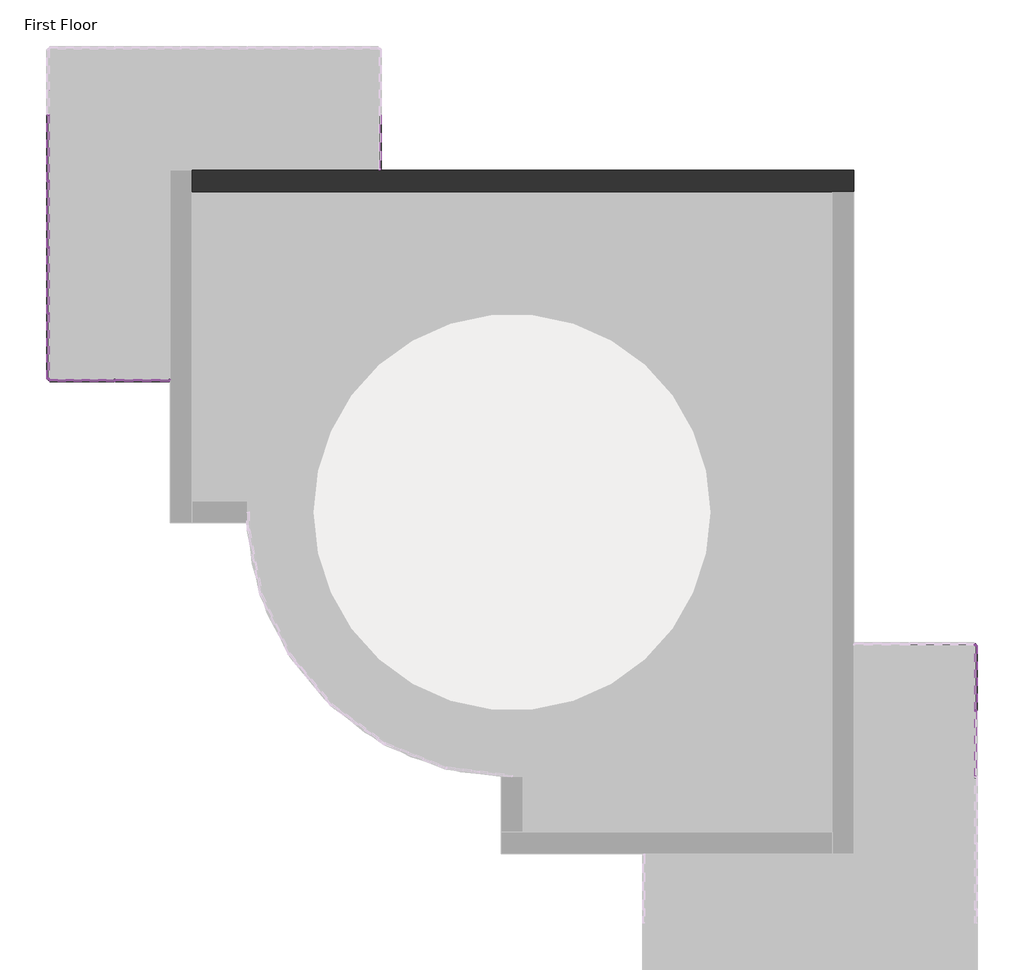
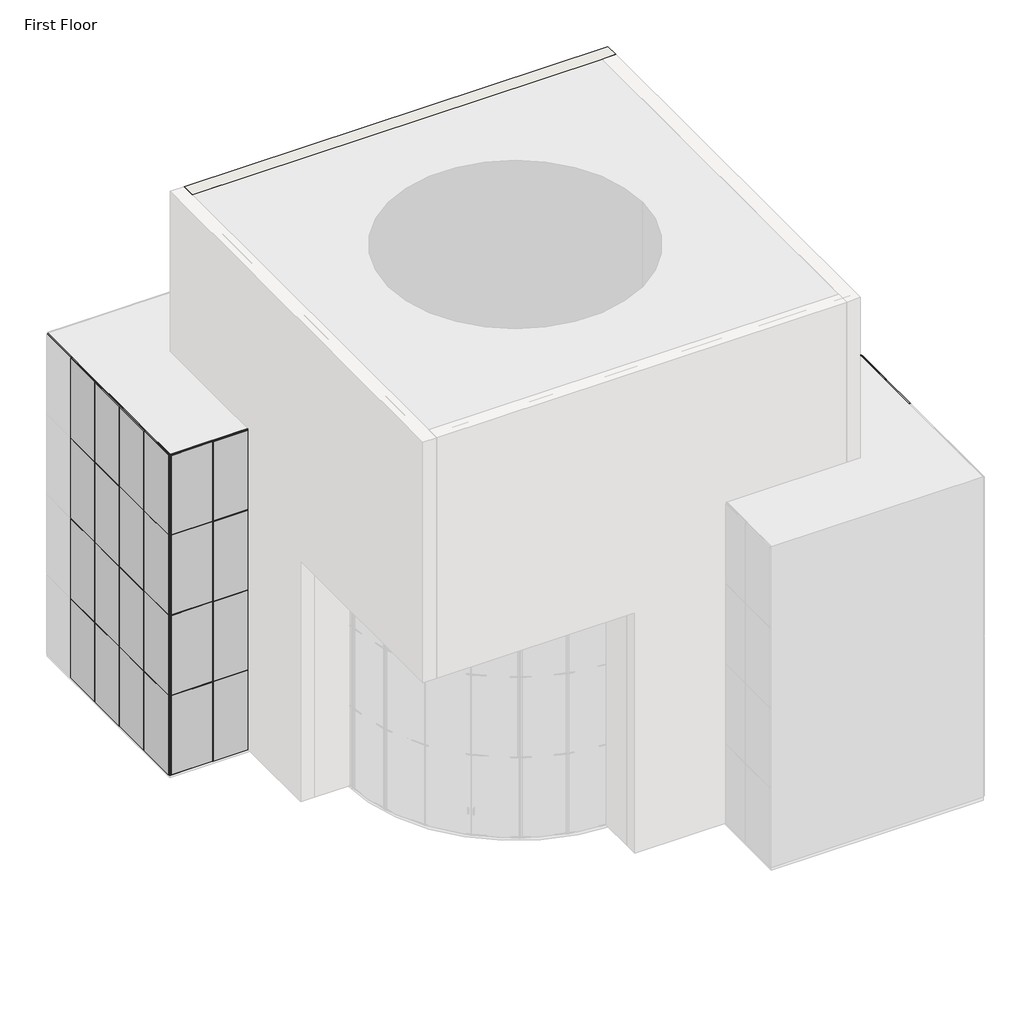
# One storey, part 3 of 4: 93 members, 32 plates, 1 wall.
"""IFC4 building model written with IfcOpenShell, lengths in millimetres."""

from ifc_helpers import new_model, si_unit, origin, place, context, project, spatial, faceted_brep, transform, mapped, element, save
from components import member_40ce1a5c, member_5e617a80, member_0d8d9af5, member_74941792, member_cbdb9076, member_7e523723, member_9fd3d903, member_6604d1e0, member_be0b070d, system_panel_glazed_9b7d687a, system_panel_glazed_3ccd4ad1, system_panel_glazed_9a901b4a, system_panel_glazed_ee91e337, system_panel_glazed_2d5e1d3d, system_panel_glazed_37964ea6, system_panel_glazed_a669fc9f, system_panel_glazed_51c864c8

model = new_model("IFC4")

# Units and contexts
model_context = context("Model", 3, world=origin())
ifc_project = project(units=[si_unit("LENGTHUNIT", "METRE", prefix="MILLI")], contexts=[model_context])

# Site, building, storey
site = spatial("IfcSite", under=ifc_project)
building = spatial("IfcBuilding", under=site)
storey = spatial("IfcBuildingStorey", under=building, Name="First Floor", Elevation=0.0)

# Members
placement = place(None, origin())
member_shape = member_40ce1a5c(model_context)
element("IfcMember", 1, ObjectType="Rectangular Mullion : 1\" Square", at=placement, inside=storey, context=model_context, shape_type="MappedRepresentation", body=[
    mapped(member_shape, transform((-10360.9806157, 2362.0139224, 6096.0), x_axis=(0.0, 0.0, 1.0), y_axis=(0.0, -1.0, 0.0), z_axis=(1.0, 0.0, 0.0))),
])
element("IfcMember", 2, ObjectType="Rectangular Mullion : 1\" Square", at=placement, inside=storey, context=model_context, shape_type="MappedRepresentation", body=[
    mapped(member_shape, transform((-10360.9806157, 2362.0139224, 9144.0), x_axis=(0.0, 0.0, 1.0), y_axis=(0.0, -1.0, 0.0), z_axis=(1.0, 0.0, 0.0))),
])
element("IfcMember", 3, ObjectType="Rectangular Mullion : 1\" Square", at=placement, inside=storey, context=model_context, shape_type="MappedRepresentation", body=[
    mapped(member_shape, transform((-10360.9806157, 2362.0139224, 3048.0), x_axis=(0.0, 0.0, 1.0), y_axis=(0.0, -1.0, 0.0), z_axis=(1.0, 0.0, 0.0))),
])
member_2_shape = member_5e617a80(model_context)
element("IfcMember", 4, ObjectType="Rectangular Mullion : 1\" Square", at=placement, inside=storey, context=model_context, shape_type="MappedRepresentation", body=[
    mapped(member_2_shape, transform((-11627.8056157, 2362.0139224, 9144.0), x_axis=(0.0, 0.0, 1.0), y_axis=(0.0, -1.0, 0.0), z_axis=(1.0, 0.0, 0.0))),
])
element("IfcMember", 5, ObjectType="Rectangular Mullion : 1\" Square", at=placement, inside=storey, context=model_context, shape_type="MappedRepresentation", body=[
    mapped(member_2_shape, transform((-11627.8056157, 2362.0139224, 6096.0), x_axis=(0.0, 0.0, 1.0), y_axis=(0.0, -1.0, 0.0), z_axis=(1.0, 0.0, 0.0))),
])
element("IfcMember", 6, ObjectType="Rectangular Mullion : 1\" Square", at=placement, inside=storey, context=model_context, shape_type="MappedRepresentation", body=[
    mapped(member_2_shape, transform((-11627.8056157, 2362.0139224, 3048.0), x_axis=(0.0, 0.0, 1.0), y_axis=(0.0, -1.0, 0.0), z_axis=(1.0, 0.0, 0.0))),
])
element("IfcMember", 7, ObjectType="Rectangular Mullion : 1\" Square", at=placement, inside=storey, context=model_context, shape_type="MappedRepresentation", body=[
    mapped(member_2_shape, transform((-13139.1056157, 8470.7139224, 3048.0), x_axis=(0.0, 0.0, 1.0), y_axis=(-1.0, 0.0, 0.0), z_axis=(0.0, -1.0, 0.0))),
])
element("IfcMember", 8, ObjectType="Rectangular Mullion : 1\" Square", at=placement, inside=storey, context=model_context, shape_type="MappedRepresentation", body=[
    mapped(member_2_shape, transform((-13139.1056157, 2387.4139224, 9144.0), x_axis=(0.0, 0.0, 1.0), y_axis=(-1.0, 0.0, 0.0), z_axis=(0.0, -1.0, 0.0))),
])
element("IfcMember", 9, ObjectType="Rectangular Mullion : 1\" Square", at=placement, inside=storey, context=model_context, shape_type="MappedRepresentation", body=[
    mapped(member_2_shape, transform((-13139.1056157, 2387.4139224, 3048.0), x_axis=(0.0, 0.0, 1.0), y_axis=(-1.0, 0.0, 0.0), z_axis=(0.0, -1.0, 0.0))),
])
element("IfcMember", 10, ObjectType="Rectangular Mullion : 1\" Square", at=placement, inside=storey, context=model_context, shape_type="MappedRepresentation", body=[
    mapped(member_2_shape, transform((-13139.1056157, 8470.7139224, 6096.0), x_axis=(0.0, 0.0, 1.0), y_axis=(-1.0, 0.0, 0.0), z_axis=(0.0, -1.0, 0.0))),
])
element("IfcMember", 11, ObjectType="Rectangular Mullion : 1\" Square", at=placement, inside=storey, context=model_context, shape_type="MappedRepresentation", body=[
    mapped(member_2_shape, transform((-13139.1056157, 2387.4139224, 6096.0), x_axis=(0.0, 0.0, 1.0), y_axis=(-1.0, 0.0, 0.0), z_axis=(0.0, -1.0, 0.0))),
])
element("IfcMember", 12, ObjectType="Rectangular Mullion : 1\" Square", at=placement, inside=storey, context=model_context, shape_type="MappedRepresentation", body=[
    mapped(member_2_shape, transform((8196.8943843, -3759.3860776, 3048.0), x_axis=(0.0, 0.0, 1.0), y_axis=(1.0, 0.0, 0.0), z_axis=(0.0, 1.0, 0.0))),
])
element("IfcMember", 13, ObjectType="Rectangular Mullion : 1\" Square", at=placement, inside=storey, context=model_context, shape_type="MappedRepresentation", body=[
    mapped(member_2_shape, transform((8196.8943843, -3759.3860776, 6096.0), x_axis=(0.0, 0.0, 1.0), y_axis=(1.0, 0.0, 0.0), z_axis=(0.0, 1.0, 0.0))),
])
element("IfcMember", 14, ObjectType="Rectangular Mullion : 1\" Square", at=placement, inside=storey, context=model_context, shape_type="MappedRepresentation", body=[
    mapped(member_2_shape, transform((8196.8943843, -3759.3860776, 9144.0), x_axis=(0.0, 0.0, 1.0), y_axis=(1.0, 0.0, 0.0), z_axis=(0.0, 1.0, 0.0))),
])
member_3_shape = member_0d8d9af5(model_context)
element("IfcMember", 15, ObjectType="Rectangular Mullion : 1\" Square", at=placement, inside=storey, context=model_context, shape_type="MappedRepresentation", body=[
    mapped(member_3_shape, transform((-11602.4056157, 2362.0139224, 0.0), x_axis=(0.0, 0.0, -1.0), y_axis=(0.0, -1.0, 0.0), z_axis=(-1.0, 0.0, 0.0))),
])
member_4_shape = member_74941792(model_context)
element("IfcMember", 16, ObjectType="Rectangular Mullion : 1\" Square", at=placement, inside=storey, context=model_context, shape_type="MappedRepresentation", body=[
    mapped(member_4_shape, transform((-11627.8056157, 2362.0139224, 12192.0), x_axis=(0.0, 0.0, 1.0), y_axis=(0.0, -1.0, 0.0), z_axis=(1.0, 0.0, 0.0))),
])
element("IfcMember", 17, ObjectType="Rectangular Mullion : 1\" Square", at=placement, inside=storey, context=model_context, shape_type="MappedRepresentation", body=[
    mapped(member_4_shape, transform((-13139.1056157, 2387.4139224, 12192.0), x_axis=(0.0, 0.0, 1.0), y_axis=(-1.0, 0.0, 0.0), z_axis=(0.0, -1.0, 0.0))),
])
element("IfcMember", 18, ObjectType="Rectangular Mullion : 1\" Square", at=placement, inside=storey, context=model_context, shape_type="MappedRepresentation", body=[
    mapped(member_4_shape, transform((-13139.1056157, 8470.7139224, 12192.0), x_axis=(0.0, 0.0, 1.0), y_axis=(-1.0, 0.0, 0.0), z_axis=(0.0, -1.0, 0.0))),
])
element("IfcMember", 19, ObjectType="Rectangular Mullion : 1\" Square", at=placement, inside=storey, context=model_context, shape_type="MappedRepresentation", body=[
    mapped(member_4_shape, transform((8196.8943843, -3759.3860776, 12192.0), x_axis=(0.0, 0.0, 1.0), y_axis=(1.0, 0.0, 0.0), z_axis=(0.0, 1.0, 0.0))),
])
member_5_shape = member_cbdb9076(model_context)
element("IfcMember", 20, ObjectType="Rectangular Mullion : 1\" Square", at=placement, inside=storey, context=model_context, shape_type="MappedRepresentation", body=[
    mapped(member_5_shape, transform((-11615.1056157, 2362.0139224, 3048.0), x_axis=(1.0, 0.0, 0.0), y_axis=(0.0, -1.0, 0.0), z_axis=(0.0, 0.0, -1.0))),
])
element("IfcMember", 21, ObjectType="Rectangular Mullion : 1\" Square", at=placement, inside=storey, context=model_context, shape_type="MappedRepresentation", body=[
    mapped(member_5_shape, transform((-11615.1056157, 2362.0139224, 6096.0), x_axis=(1.0, 0.0, 0.0), y_axis=(0.0, -1.0, 0.0), z_axis=(0.0, 0.0, -1.0))),
])
element("IfcMember", 22, ObjectType="Rectangular Mullion : 1\" Square", at=placement, inside=storey, context=model_context, shape_type="MappedRepresentation", body=[
    mapped(member_5_shape, transform((-13139.1056157, 8458.0139224, 3048.0), x_axis=(0.0, -1.0, 0.0), y_axis=(-1.0, 0.0, 0.0), z_axis=(0.0, 0.0, -1.0))),
])
element("IfcMember", 23, ObjectType="Rectangular Mullion : 1\" Square", at=placement, inside=storey, context=model_context, shape_type="MappedRepresentation", body=[
    mapped(member_5_shape, transform((-13139.1056157, 8458.0139224, 6096.0), x_axis=(0.0, -1.0, 0.0), y_axis=(-1.0, 0.0, 0.0), z_axis=(0.0, 0.0, -1.0))),
])
element("IfcMember", 24, ObjectType="Rectangular Mullion : 1\" Square", at=placement, inside=storey, context=model_context, shape_type="MappedRepresentation", body=[
    mapped(member_5_shape, transform((-13139.1056157, 6934.0139224, 3048.0), x_axis=(0.0, -1.0, 0.0), y_axis=(-1.0, 0.0, 0.0), z_axis=(0.0, 0.0, -1.0))),
])
element("IfcMember", 25, ObjectType="Rectangular Mullion : 1\" Square", at=placement, inside=storey, context=model_context, shape_type="MappedRepresentation", body=[
    mapped(member_5_shape, transform((-13139.1056157, 6934.0139224, 6096.0), x_axis=(0.0, -1.0, 0.0), y_axis=(-1.0, 0.0, 0.0), z_axis=(0.0, 0.0, -1.0))),
])
element("IfcMember", 26, ObjectType="Rectangular Mullion : 1\" Square", at=placement, inside=storey, context=model_context, shape_type="MappedRepresentation", body=[
    mapped(member_5_shape, transform((-13139.1056157, 5410.0139224, 3048.0), x_axis=(0.0, -1.0, 0.0), y_axis=(-1.0, 0.0, 0.0), z_axis=(0.0, 0.0, -1.0))),
])
element("IfcMember", 27, ObjectType="Rectangular Mullion : 1\" Square", at=placement, inside=storey, context=model_context, shape_type="MappedRepresentation", body=[
    mapped(member_5_shape, transform((-13139.1056157, 5410.0139224, 6096.0), x_axis=(0.0, -1.0, 0.0), y_axis=(-1.0, 0.0, 0.0), z_axis=(0.0, 0.0, -1.0))),
])
element("IfcMember", 28, ObjectType="Rectangular Mullion : 1\" Square", at=placement, inside=storey, context=model_context, shape_type="MappedRepresentation", body=[
    mapped(member_5_shape, transform((-13139.1056157, 3886.0139224, 3048.0), x_axis=(0.0, -1.0, 0.0), y_axis=(-1.0, 0.0, 0.0), z_axis=(0.0, 0.0, -1.0))),
])
element("IfcMember", 29, ObjectType="Rectangular Mullion : 1\" Square", at=placement, inside=storey, context=model_context, shape_type="MappedRepresentation", body=[
    mapped(member_5_shape, transform((-13139.1056157, 3886.0139224, 6096.0), x_axis=(0.0, -1.0, 0.0), y_axis=(-1.0, 0.0, 0.0), z_axis=(0.0, 0.0, -1.0))),
])
element("IfcMember", 30, ObjectType="Rectangular Mullion : 1\" Square", at=placement, inside=storey, context=model_context, shape_type="MappedRepresentation", body=[
    mapped(member_5_shape, transform((8196.8943843, -5257.9860776, 3048.0), x_axis=(0.0, 1.0, 0.0), y_axis=(1.0, 0.0, 0.0), z_axis=(0.0, 0.0, -1.0))),
])
element("IfcMember", 31, ObjectType="Rectangular Mullion : 1\" Square", at=placement, inside=storey, context=model_context, shape_type="MappedRepresentation", body=[
    mapped(member_5_shape, transform((8196.8943843, -5257.9860776, 6096.0), x_axis=(0.0, 1.0, 0.0), y_axis=(1.0, 0.0, 0.0), z_axis=(0.0, 0.0, -1.0))),
])
element("IfcMember", 32, ObjectType="Rectangular Mullion : 1\" Square", at=placement, inside=storey, context=model_context, shape_type="MappedRepresentation", body=[
    mapped(member_5_shape, transform((-11615.1056157, 2362.0139224, 9144.0), x_axis=(1.0, 0.0, 0.0), y_axis=(0.0, -1.0, 0.0), z_axis=(0.0, 0.0, -1.0))),
])
element("IfcMember", 33, ObjectType="Rectangular Mullion : 1\" Square", at=placement, inside=storey, context=model_context, shape_type="MappedRepresentation", body=[
    mapped(member_5_shape, transform((-13139.1056157, 8458.0139224, 9144.0), x_axis=(0.0, -1.0, 0.0), y_axis=(-1.0, 0.0, 0.0), z_axis=(0.0, 0.0, -1.0))),
])
element("IfcMember", 34, ObjectType="Rectangular Mullion : 1\" Square", at=placement, inside=storey, context=model_context, shape_type="MappedRepresentation", body=[
    mapped(member_5_shape, transform((-13139.1056157, 6934.0139224, 9144.0), x_axis=(0.0, -1.0, 0.0), y_axis=(-1.0, 0.0, 0.0), z_axis=(0.0, 0.0, -1.0))),
])
element("IfcMember", 35, ObjectType="Rectangular Mullion : 1\" Square", at=placement, inside=storey, context=model_context, shape_type="MappedRepresentation", body=[
    mapped(member_5_shape, transform((-13139.1056157, 5410.0139224, 9144.0), x_axis=(0.0, -1.0, 0.0), y_axis=(-1.0, 0.0, 0.0), z_axis=(0.0, 0.0, -1.0))),
])
element("IfcMember", 36, ObjectType="Rectangular Mullion : 1\" Square", at=placement, inside=storey, context=model_context, shape_type="MappedRepresentation", body=[
    mapped(member_5_shape, transform((-13139.1056157, 3886.0139224, 9144.0), x_axis=(0.0, -1.0, 0.0), y_axis=(-1.0, 0.0, 0.0), z_axis=(0.0, 0.0, -1.0))),
])
element("IfcMember", 37, ObjectType="Rectangular Mullion : 1\" Square", at=placement, inside=storey, context=model_context, shape_type="MappedRepresentation", body=[
    mapped(member_5_shape, transform((8196.8943843, -5257.9860776, 9144.0), x_axis=(0.0, 1.0, 0.0), y_axis=(1.0, 0.0, 0.0), z_axis=(0.0, 0.0, -1.0))),
])
element("IfcMember", 38, ObjectType="Rectangular Mullion : 1\" Square", at=placement, inside=storey, context=model_context, shape_type="MappedRepresentation", body=[
    mapped(member_5_shape, transform((-11615.1056157, 2362.0139224, 0.0), x_axis=(1.0, 0.0, 0.0), y_axis=(0.0, -1.0, 0.0), z_axis=(0.0, 0.0, -1.0))),
])
element("IfcMember", 39, ObjectType="Rectangular Mullion : 1\" Square", at=placement, inside=storey, context=model_context, shape_type="MappedRepresentation", body=[
    mapped(member_5_shape, transform((-13139.1056157, 8458.0139224, 0.0), x_axis=(0.0, -1.0, 0.0), y_axis=(-1.0, 0.0, 0.0), z_axis=(0.0, 0.0, -1.0))),
])
element("IfcMember", 40, ObjectType="Rectangular Mullion : 1\" Square", at=placement, inside=storey, context=model_context, shape_type="MappedRepresentation", body=[
    mapped(member_5_shape, transform((-13139.1056157, 6934.0139224, 0.0), x_axis=(0.0, -1.0, 0.0), y_axis=(-1.0, 0.0, 0.0), z_axis=(0.0, 0.0, -1.0))),
])
element("IfcMember", 41, ObjectType="Rectangular Mullion : 1\" Square", at=placement, inside=storey, context=model_context, shape_type="MappedRepresentation", body=[
    mapped(member_5_shape, transform((-13139.1056157, 5410.0139224, 0.0), x_axis=(0.0, -1.0, 0.0), y_axis=(-1.0, 0.0, 0.0), z_axis=(0.0, 0.0, -1.0))),
])
element("IfcMember", 42, ObjectType="Rectangular Mullion : 1\" Square", at=placement, inside=storey, context=model_context, shape_type="MappedRepresentation", body=[
    mapped(member_5_shape, transform((-13139.1056157, 3886.0139224, 0.0), x_axis=(0.0, -1.0, 0.0), y_axis=(-1.0, 0.0, 0.0), z_axis=(0.0, 0.0, -1.0))),
])
element("IfcMember", 43, ObjectType="Rectangular Mullion : 1\" Square", at=placement, inside=storey, context=model_context, shape_type="MappedRepresentation", body=[
    mapped(member_5_shape, transform((8196.8943843, -6781.9860776, 0.0), x_axis=(0.0, 1.0, 0.0), y_axis=(1.0, 0.0, 0.0), z_axis=(0.0, 0.0, -1.0))),
])
element("IfcMember", 44, ObjectType="Rectangular Mullion : 1\" Square", at=placement, inside=storey, context=model_context, shape_type="MappedRepresentation", body=[
    mapped(member_5_shape, transform((8196.8943843, -5257.9860776, 0.0), x_axis=(0.0, 1.0, 0.0), y_axis=(1.0, 0.0, 0.0), z_axis=(0.0, 0.0, -1.0))),
])
element("IfcMember", 45, ObjectType="Rectangular Mullion : 1\" Square", at=placement, inside=storey, context=model_context, shape_type="MappedRepresentation", body=[
    mapped(member_4_shape, transform((-13113.7056157, 2362.0139224, 0.0), x_axis=(0.0, 0.0, -1.0), y_axis=(0.0, -1.0, 0.0), z_axis=(-1.0, 0.0, 0.0))),
])
element("IfcMember", 46, ObjectType="Rectangular Mullion : 1\" Square", at=placement, inside=storey, context=model_context, shape_type="MappedRepresentation", body=[
    mapped(member_4_shape, transform((-13139.1056157, 3873.3139224, 0.0), x_axis=(0.0, 0.0, -1.0), y_axis=(-1.0, 0.0, 0.0), z_axis=(0.0, 1.0, 0.0))),
])
element("IfcMember", 47, ObjectType="Rectangular Mullion : 1\" Square", at=placement, inside=storey, context=model_context, shape_type="MappedRepresentation", body=[
    mapped(member_4_shape, transform((8196.8943843, -5245.2860776, 0.0), x_axis=(0.0, 0.0, -1.0), y_axis=(1.0, 0.0, 0.0), z_axis=(0.0, -1.0, 0.0))),
])
element("IfcMember", 48, ObjectType="Rectangular Mullion : 1\" Square", at=placement, inside=storey, context=model_context, shape_type="MappedRepresentation", body=[
    mapped(member_4_shape, transform((8171.4943843, -3733.9860776, 0.0), x_axis=(0.0, 0.0, -1.0), y_axis=(0.0, 1.0, 0.0), z_axis=(1.0, 0.0, 0.0))),
])
element("IfcMember", 49, ObjectType="Rectangular Mullion : 1\" Square", at=placement, inside=storey, context=model_context, shape_type="MappedRepresentation", body=[
    mapped(member_3_shape, transform((-10360.9806157, 2362.0139224, 12192.0), x_axis=(0.0, 0.0, 1.0), y_axis=(0.0, -1.0, 0.0), z_axis=(1.0, 0.0, 0.0))),
])
member_6_shape = member_7e523723(model_context)
element("IfcMember", 50, ObjectType="Rectangular Mullion : 1\" Square", at=placement, inside=storey, context=model_context, shape_type="MappedRepresentation", body=[
    mapped(member_6_shape, transform((-13139.1056157, 2362.0139224, 12192.0), x_axis=(-1.0, 0.0, 0.0), y_axis=(0.0, -1.0, 0.0), z_axis=(0.0, 0.0, 1.0))),
])
element("IfcMember", 51, ObjectType="Rectangular Mullion : 1\" Square", at=placement, inside=storey, context=model_context, shape_type="MappedRepresentation", body=[
    mapped(member_6_shape, transform((8196.8943843, -3733.9860776, 12192.0), x_axis=(1.0, 0.0, 0.0), y_axis=(0.0, 1.0, 0.0), z_axis=(0.0, 0.0, 1.0))),
])
element("IfcMember", 52, ObjectType="Rectangular Mullion : 1\" Square", at=placement, inside=storey, context=model_context, shape_type="MappedRepresentation", body=[
    mapped(member_6_shape, transform((-5519.1056157, 7178.4889224, 12192.0), x_axis=(0.0, -1.0, 0.0), y_axis=(1.0, 0.0, 0.0), z_axis=(0.0, 0.0, 1.0))),
])
element("IfcMember", 53, ObjectType="Rectangular Mullion : 1\" Square", at=placement, inside=storey, context=model_context, shape_type="MappedRepresentation", body=[
    mapped(member_6_shape, transform((-10335.5806157, 2362.0139224, 3048.0), x_axis=(1.0, 0.0, 0.0), y_axis=(0.0, -1.0, 0.0), z_axis=(0.0, 0.0, -1.0))),
])
element("IfcMember", 54, ObjectType="Rectangular Mullion : 1\" Square", at=placement, inside=storey, context=model_context, shape_type="MappedRepresentation", body=[
    mapped(member_6_shape, transform((-10335.5806157, 2362.0139224, 6096.0), x_axis=(1.0, 0.0, 0.0), y_axis=(0.0, -1.0, 0.0), z_axis=(0.0, 0.0, -1.0))),
])
element("IfcMember", 55, ObjectType="Rectangular Mullion : 1\" Square", at=placement, inside=storey, context=model_context, shape_type="MappedRepresentation", body=[
    mapped(member_6_shape, transform((-13139.1056157, 2362.0139224, 3048.0), x_axis=(0.0, -1.0, 0.0), y_axis=(-1.0, 0.0, 0.0), z_axis=(0.0, 0.0, -1.0))),
])
element("IfcMember", 56, ObjectType="Rectangular Mullion : 1\" Square", at=placement, inside=storey, context=model_context, shape_type="MappedRepresentation", body=[
    mapped(member_6_shape, transform((-13139.1056157, 2362.0139224, 6096.0), x_axis=(0.0, -1.0, 0.0), y_axis=(-1.0, 0.0, 0.0), z_axis=(0.0, 0.0, -1.0))),
])
element("IfcMember", 57, ObjectType="Rectangular Mullion : 1\" Square", at=placement, inside=storey, context=model_context, shape_type="MappedRepresentation", body=[
    mapped(member_6_shape, transform((8196.8943843, -3733.9860776, 3048.0), x_axis=(0.0, 1.0, 0.0), y_axis=(1.0, 0.0, 0.0), z_axis=(0.0, 0.0, -1.0))),
])
element("IfcMember", 58, ObjectType="Rectangular Mullion : 1\" Square", at=placement, inside=storey, context=model_context, shape_type="MappedRepresentation", body=[
    mapped(member_6_shape, transform((8196.8943843, -3733.9860776, 6096.0), x_axis=(0.0, 1.0, 0.0), y_axis=(1.0, 0.0, 0.0), z_axis=(0.0, 0.0, -1.0))),
])
element("IfcMember", 59, ObjectType="Rectangular Mullion : 1\" Square", at=placement, inside=storey, context=model_context, shape_type="MappedRepresentation", body=[
    mapped(member_6_shape, transform((-10335.5806157, 2362.0139224, 9144.0), x_axis=(1.0, 0.0, 0.0), y_axis=(0.0, -1.0, 0.0), z_axis=(0.0, 0.0, -1.0))),
])
element("IfcMember", 60, ObjectType="Rectangular Mullion : 1\" Square", at=placement, inside=storey, context=model_context, shape_type="MappedRepresentation", body=[
    mapped(member_6_shape, transform((-13139.1056157, 2362.0139224, 9144.0), x_axis=(0.0, -1.0, 0.0), y_axis=(-1.0, 0.0, 0.0), z_axis=(0.0, 0.0, -1.0))),
])
element("IfcMember", 61, ObjectType="Rectangular Mullion : 1\" Square", at=placement, inside=storey, context=model_context, shape_type="MappedRepresentation", body=[
    mapped(member_6_shape, transform((8196.8943843, -3733.9860776, 9144.0), x_axis=(0.0, 1.0, 0.0), y_axis=(1.0, 0.0, 0.0), z_axis=(0.0, 0.0, -1.0))),
])
element("IfcMember", 62, ObjectType="Rectangular Mullion : 1\" Square", at=placement, inside=storey, context=model_context, shape_type="MappedRepresentation", body=[
    mapped(member_6_shape, transform((-13139.1056157, 2362.0139224, 3048.0), x_axis=(-1.0, 0.0, 0.0), y_axis=(0.0, -1.0, 0.0), z_axis=(0.0, 0.0, 1.0))),
])
element("IfcMember", 63, ObjectType="Rectangular Mullion : 1\" Square", at=placement, inside=storey, context=model_context, shape_type="MappedRepresentation", body=[
    mapped(member_6_shape, transform((8196.8943843, -3733.9860776, 3048.0), x_axis=(1.0, 0.0, 0.0), y_axis=(0.0, 1.0, 0.0), z_axis=(0.0, 0.0, 1.0))),
])
element("IfcMember", 64, ObjectType="Rectangular Mullion : 1\" Square", at=placement, inside=storey, context=model_context, shape_type="MappedRepresentation", body=[
    mapped(member_6_shape, transform((-5519.1056157, 7178.4889224, 3048.0), x_axis=(0.0, -1.0, 0.0), y_axis=(1.0, 0.0, 0.0), z_axis=(0.0, 0.0, 1.0))),
])
element("IfcMember", 65, ObjectType="Rectangular Mullion : 1\" Square", at=placement, inside=storey, context=model_context, shape_type="MappedRepresentation", body=[
    mapped(member_6_shape, transform((-13139.1056157, 2362.0139224, 6096.0), x_axis=(-1.0, 0.0, 0.0), y_axis=(0.0, -1.0, 0.0), z_axis=(0.0, 0.0, 1.0))),
])
element("IfcMember", 66, ObjectType="Rectangular Mullion : 1\" Square", at=placement, inside=storey, context=model_context, shape_type="MappedRepresentation", body=[
    mapped(member_6_shape, transform((-13139.1056157, 2362.0139224, 9144.0), x_axis=(-1.0, 0.0, 0.0), y_axis=(0.0, -1.0, 0.0), z_axis=(0.0, 0.0, 1.0))),
])
element("IfcMember", 67, ObjectType="Rectangular Mullion : 1\" Square", at=placement, inside=storey, context=model_context, shape_type="MappedRepresentation", body=[
    mapped(member_6_shape, transform((8196.8943843, -3733.9860776, 6096.0), x_axis=(1.0, 0.0, 0.0), y_axis=(0.0, 1.0, 0.0), z_axis=(0.0, 0.0, 1.0))),
])
element("IfcMember", 68, ObjectType="Rectangular Mullion : 1\" Square", at=placement, inside=storey, context=model_context, shape_type="MappedRepresentation", body=[
    mapped(member_6_shape, transform((8196.8943843, -3733.9860776, 9144.0), x_axis=(1.0, 0.0, 0.0), y_axis=(0.0, 1.0, 0.0), z_axis=(0.0, 0.0, 1.0))),
])
element("IfcMember", 69, ObjectType="Rectangular Mullion : 1\" Square", at=placement, inside=storey, context=model_context, shape_type="MappedRepresentation", body=[
    mapped(member_6_shape, transform((-5519.1056157, 7178.4889224, 6096.0), x_axis=(0.0, -1.0, 0.0), y_axis=(1.0, 0.0, 0.0), z_axis=(0.0, 0.0, 1.0))),
])
element("IfcMember", 70, ObjectType="Rectangular Mullion : 1\" Square", at=placement, inside=storey, context=model_context, shape_type="MappedRepresentation", body=[
    mapped(member_6_shape, transform((-5519.1056157, 7178.4889224, 9144.0), x_axis=(0.0, -1.0, 0.0), y_axis=(1.0, 0.0, 0.0), z_axis=(0.0, 0.0, 1.0))),
])
element("IfcMember", 71, ObjectType="Rectangular Mullion : 1\" Square", at=placement, inside=storey, context=model_context, shape_type="MappedRepresentation", body=[
    mapped(member_6_shape, transform((-10335.5806157, 2362.0139224, 0.0), x_axis=(1.0, 0.0, 0.0), y_axis=(0.0, -1.0, 0.0), z_axis=(0.0, 0.0, -1.0))),
])
element("IfcMember", 72, ObjectType="Rectangular Mullion : 1\" Square", at=placement, inside=storey, context=model_context, shape_type="MappedRepresentation", body=[
    mapped(member_6_shape, transform((-13139.1056157, 2362.0139224, 0.0), x_axis=(0.0, -1.0, 0.0), y_axis=(-1.0, 0.0, 0.0), z_axis=(0.0, 0.0, -1.0))),
])
element("IfcMember", 73, ObjectType="Rectangular Mullion : 1\" Square", at=placement, inside=storey, context=model_context, shape_type="MappedRepresentation", body=[
    mapped(member_6_shape, transform((8196.8943843, -3733.9860776, 0.0), x_axis=(0.0, 1.0, 0.0), y_axis=(1.0, 0.0, 0.0), z_axis=(0.0, 0.0, -1.0))),
])
member_7_shape = member_9fd3d903(model_context)
element("IfcMember", 74, ObjectType="Rectangular Mullion : 1\" Square", at=placement, inside=storey, context=model_context, shape_type="MappedRepresentation", body=[
    mapped(member_7_shape, transform((-13139.1056157, 6946.7139224, 3048.0), x_axis=(0.0, 0.0, 1.0), y_axis=(-1.0, 0.0, 0.0), z_axis=(0.0, -1.0, 0.0))),
])
element("IfcMember", 75, ObjectType="Rectangular Mullion : 1\" Square", at=placement, inside=storey, context=model_context, shape_type="MappedRepresentation", body=[
    mapped(member_7_shape, transform((-13139.1056157, 5422.7139224, 3048.0), x_axis=(0.0, 0.0, 1.0), y_axis=(-1.0, 0.0, 0.0), z_axis=(0.0, -1.0, 0.0))),
])
element("IfcMember", 76, ObjectType="Rectangular Mullion : 1\" Square", at=placement, inside=storey, context=model_context, shape_type="MappedRepresentation", body=[
    mapped(member_7_shape, transform((-13139.1056157, 3898.7139224, 3048.0), x_axis=(0.0, 0.0, 1.0), y_axis=(-1.0, 0.0, 0.0), z_axis=(0.0, -1.0, 0.0))),
])
element("IfcMember", 77, ObjectType="Rectangular Mullion : 1\" Square", at=placement, inside=storey, context=model_context, shape_type="MappedRepresentation", body=[
    mapped(member_7_shape, transform((-13139.1056157, 6946.7139224, 6096.0), x_axis=(0.0, 0.0, 1.0), y_axis=(-1.0, 0.0, 0.0), z_axis=(0.0, -1.0, 0.0))),
])
element("IfcMember", 78, ObjectType="Rectangular Mullion : 1\" Square", at=placement, inside=storey, context=model_context, shape_type="MappedRepresentation", body=[
    mapped(member_7_shape, transform((-13139.1056157, 5422.7139224, 6096.0), x_axis=(0.0, 0.0, 1.0), y_axis=(-1.0, 0.0, 0.0), z_axis=(0.0, -1.0, 0.0))),
])
element("IfcMember", 79, ObjectType="Rectangular Mullion : 1\" Square", at=placement, inside=storey, context=model_context, shape_type="MappedRepresentation", body=[
    mapped(member_7_shape, transform((-13139.1056157, 3898.7139224, 6096.0), x_axis=(0.0, 0.0, 1.0), y_axis=(-1.0, 0.0, 0.0), z_axis=(0.0, -1.0, 0.0))),
])
element("IfcMember", 80, ObjectType="Rectangular Mullion : 1\" Square", at=placement, inside=storey, context=model_context, shape_type="MappedRepresentation", body=[
    mapped(member_7_shape, transform((-13139.1056157, 6946.7139224, 9144.0), x_axis=(0.0, 0.0, 1.0), y_axis=(-1.0, 0.0, 0.0), z_axis=(0.0, -1.0, 0.0))),
])
element("IfcMember", 81, ObjectType="Rectangular Mullion : 1\" Square", at=placement, inside=storey, context=model_context, shape_type="MappedRepresentation", body=[
    mapped(member_7_shape, transform((-13139.1056157, 5422.7139224, 9144.0), x_axis=(0.0, 0.0, 1.0), y_axis=(-1.0, 0.0, 0.0), z_axis=(0.0, -1.0, 0.0))),
])
element("IfcMember", 82, ObjectType="Rectangular Mullion : 1\" Square", at=placement, inside=storey, context=model_context, shape_type="MappedRepresentation", body=[
    mapped(member_7_shape, transform((-13139.1056157, 3898.7139224, 9144.0), x_axis=(0.0, 0.0, 1.0), y_axis=(-1.0, 0.0, 0.0), z_axis=(0.0, -1.0, 0.0))),
])
element("IfcMember", 83, ObjectType="Rectangular Mullion : 1\" Square", at=placement, inside=storey, context=model_context, shape_type="MappedRepresentation", body=[
    mapped(member_7_shape, transform((8196.8943843, -5270.6860776, 3048.0), x_axis=(0.0, 0.0, 1.0), y_axis=(1.0, 0.0, 0.0), z_axis=(0.0, 1.0, 0.0))),
])
element("IfcMember", 84, ObjectType="Rectangular Mullion : 1\" Square", at=placement, inside=storey, context=model_context, shape_type="MappedRepresentation", body=[
    mapped(member_7_shape, transform((8196.8943843, -5270.6860776, 6096.0), x_axis=(0.0, 0.0, 1.0), y_axis=(1.0, 0.0, 0.0), z_axis=(0.0, 1.0, 0.0))),
])
element("IfcMember", 85, ObjectType="Rectangular Mullion : 1\" Square", at=placement, inside=storey, context=model_context, shape_type="MappedRepresentation", body=[
    mapped(member_7_shape, transform((8196.8943843, -5270.6860776, 9144.0), x_axis=(0.0, 0.0, 1.0), y_axis=(1.0, 0.0, 0.0), z_axis=(0.0, 1.0, 0.0))),
])
member_8_shape = member_6604d1e0(model_context)
element("IfcMember", 86, ObjectType="Rectangular Mullion : 1\" Square", at=placement, inside=storey, context=model_context, shape_type="MappedRepresentation", body=[
    mapped(member_8_shape, transform((-13139.1056157, 3898.7139224, 12192.0), x_axis=(0.0, 0.0, 1.0), y_axis=(-1.0, 0.0, 0.0), z_axis=(0.0, -1.0, 0.0))),
])
element("IfcMember", 87, ObjectType="Rectangular Mullion : 1\" Square", at=placement, inside=storey, context=model_context, shape_type="MappedRepresentation", body=[
    mapped(member_8_shape, transform((-13139.1056157, 6946.7139224, 12192.0), x_axis=(0.0, 0.0, 1.0), y_axis=(-1.0, 0.0, 0.0), z_axis=(0.0, -1.0, 0.0))),
])
element("IfcMember", 88, ObjectType="Rectangular Mullion : 1\" Square", at=placement, inside=storey, context=model_context, shape_type="MappedRepresentation", body=[
    mapped(member_8_shape, transform((-13139.1056157, 5422.7139224, 12192.0), x_axis=(0.0, 0.0, 1.0), y_axis=(-1.0, 0.0, 0.0), z_axis=(0.0, -1.0, 0.0))),
])
element("IfcMember", 89, ObjectType="Rectangular Mullion : 1\" Square", at=placement, inside=storey, context=model_context, shape_type="MappedRepresentation", body=[
    mapped(member_8_shape, transform((8196.8943843, -5270.6860776, 12192.0), x_axis=(0.0, 0.0, 1.0), y_axis=(1.0, 0.0, 0.0), z_axis=(0.0, 1.0, 0.0))),
])
element("IfcMember", 90, ObjectType="Rectangular Mullion : 1\" Square", at=placement, inside=storey, context=model_context, shape_type="MappedRepresentation", body=[
    mapped(member_8_shape, transform((-13139.1056157, 8445.3139224, 0.0), x_axis=(0.0, 0.0, -1.0), y_axis=(-1.0, 0.0, 0.0), z_axis=(0.0, 1.0, 0.0))),
])
element("IfcMember", 91, ObjectType="Rectangular Mullion : 1\" Square", at=placement, inside=storey, context=model_context, shape_type="MappedRepresentation", body=[
    mapped(member_8_shape, transform((-13139.1056157, 6921.3139224, 0.0), x_axis=(0.0, 0.0, -1.0), y_axis=(-1.0, 0.0, 0.0), z_axis=(0.0, 1.0, 0.0))),
])
element("IfcMember", 92, ObjectType="Rectangular Mullion : 1\" Square", at=placement, inside=storey, context=model_context, shape_type="MappedRepresentation", body=[
    mapped(member_8_shape, transform((-13139.1056157, 5397.3139224, 0.0), x_axis=(0.0, 0.0, -1.0), y_axis=(-1.0, 0.0, 0.0), z_axis=(0.0, 1.0, 0.0))),
])
member_9_shape = member_be0b070d(model_context)
element("IfcMember", 93, ObjectType="Rectangular Mullion : 1\" Square", at=placement, inside=storey, context=model_context, shape_type="MappedRepresentation", body=[
    mapped(member_9_shape, transform((-5519.1056157, 7203.8889224, 0.0), x_axis=(0.0, 0.0, -1.0), y_axis=(1.0, 0.0, 0.0), z_axis=(0.0, -1.0, 0.0))),
])

# Plates
system_panel_glazed_shape = system_panel_glazed_9b7d687a(model_context)
element("IfcPlate", 94, ObjectType="System Panel : Glazed", at=placement, inside=storey, context=model_context, shape_type="MappedRepresentation", body=[
    mapped(system_panel_glazed_shape, transform((-13139.1056157, 3130.3639224, 25.4), x_axis=(0.0, -1.0, 0.0), y_axis=(1.0, 0.0, 0.0), z_axis=(0.0, 0.0, 1.0))),
])
element("IfcPlate", 95, ObjectType="System Panel : Glazed", at=placement, inside=storey, context=model_context, shape_type="MappedRepresentation", body=[
    mapped(system_panel_glazed_shape, transform((-13139.1056157, 3130.3639224, 9156.7), x_axis=(0.0, -1.0, 0.0), y_axis=(1.0, 0.0, 0.0), z_axis=(0.0, 0.0, 1.0))),
])
element("IfcPlate", 96, ObjectType="System Panel : Glazed", at=placement, inside=storey, context=model_context, shape_type="MappedRepresentation", body=[
    mapped(system_panel_glazed_shape, transform((-12370.7556157, 2362.0139224, 25.4), x_axis=(1.0, 0.0, 0.0), y_axis=(0.0, 1.0, 0.0), z_axis=(0.0, 0.0, 1.0))),
])
element("IfcPlate", 97, ObjectType="System Panel : Glazed", at=placement, inside=storey, context=model_context, shape_type="MappedRepresentation", body=[
    mapped(system_panel_glazed_shape, transform((-12370.7556157, 2362.0139224, 9156.7), x_axis=(1.0, 0.0, 0.0), y_axis=(0.0, 1.0, 0.0), z_axis=(0.0, 0.0, 1.0))),
])
element("IfcPlate", 98, ObjectType="System Panel : Glazed", at=placement, inside=storey, context=model_context, shape_type="MappedRepresentation", body=[
    mapped(system_panel_glazed_shape, transform((8196.8943843, -4502.3360776, 25.4), x_axis=(0.0, 1.0, 0.0), y_axis=(-1.0, 0.0, 0.0), z_axis=(0.0, 0.0, 1.0))),
])
element("IfcPlate", 99, ObjectType="System Panel : Glazed", at=placement, inside=storey, context=model_context, shape_type="MappedRepresentation", body=[
    mapped(system_panel_glazed_shape, transform((8196.8943843, -4502.3360776, 9156.7), x_axis=(0.0, 1.0, 0.0), y_axis=(-1.0, 0.0, 0.0), z_axis=(0.0, 0.0, 1.0))),
])
system_panel_glazed_2_shape = system_panel_glazed_3ccd4ad1(model_context)
element("IfcPlate", 100, ObjectType="System Panel : Glazed", at=placement, inside=storey, context=model_context, shape_type="MappedRepresentation", body=[
    mapped(system_panel_glazed_2_shape, transform((-10981.6931157, 2362.0139224, 25.4), x_axis=(1.0, 0.0, 0.0), y_axis=(0.0, 1.0, 0.0), z_axis=(0.0, 0.0, 1.0))),
])
element("IfcPlate", 101, ObjectType="System Panel : Glazed", at=placement, inside=storey, context=model_context, shape_type="MappedRepresentation", body=[
    mapped(system_panel_glazed_2_shape, transform((-10981.6931157, 2362.0139224, 9156.7), x_axis=(1.0, 0.0, 0.0), y_axis=(0.0, 1.0, 0.0), z_axis=(0.0, 0.0, 1.0))),
])
system_panel_glazed_3_shape = system_panel_glazed_9a901b4a(model_context)
element("IfcPlate", 102, ObjectType="System Panel : Glazed", at=placement, inside=storey, context=model_context, shape_type="MappedRepresentation", body=[
    mapped(system_panel_glazed_3_shape, transform((-13139.1056157, 3130.3639224, 3060.7), x_axis=(0.0, -1.0, 0.0), y_axis=(1.0, 0.0, 0.0), z_axis=(0.0, 0.0, 1.0))),
])
element("IfcPlate", 103, ObjectType="System Panel : Glazed", at=placement, inside=storey, context=model_context, shape_type="MappedRepresentation", body=[
    mapped(system_panel_glazed_3_shape, transform((-13139.1056157, 3130.3639224, 6108.7), x_axis=(0.0, -1.0, 0.0), y_axis=(1.0, 0.0, 0.0), z_axis=(0.0, 0.0, 1.0))),
])
element("IfcPlate", 104, ObjectType="System Panel : Glazed", at=placement, inside=storey, context=model_context, shape_type="MappedRepresentation", body=[
    mapped(system_panel_glazed_3_shape, transform((-12370.7556157, 2362.0139224, 3060.7), x_axis=(1.0, 0.0, 0.0), y_axis=(0.0, 1.0, 0.0), z_axis=(0.0, 0.0, 1.0))),
])
element("IfcPlate", 105, ObjectType="System Panel : Glazed", at=placement, inside=storey, context=model_context, shape_type="MappedRepresentation", body=[
    mapped(system_panel_glazed_3_shape, transform((-12370.7556157, 2362.0139224, 6108.7), x_axis=(1.0, 0.0, 0.0), y_axis=(0.0, 1.0, 0.0), z_axis=(0.0, 0.0, 1.0))),
])
element("IfcPlate", 106, ObjectType="System Panel : Glazed", at=placement, inside=storey, context=model_context, shape_type="MappedRepresentation", body=[
    mapped(system_panel_glazed_3_shape, transform((8196.8943843, -4502.3360776, 3060.7), x_axis=(0.0, 1.0, 0.0), y_axis=(-1.0, 0.0, 0.0), z_axis=(0.0, 0.0, 1.0))),
])
element("IfcPlate", 107, ObjectType="System Panel : Glazed", at=placement, inside=storey, context=model_context, shape_type="MappedRepresentation", body=[
    mapped(system_panel_glazed_3_shape, transform((8196.8943843, -4502.3360776, 6108.7), x_axis=(0.0, 1.0, 0.0), y_axis=(-1.0, 0.0, 0.0), z_axis=(0.0, 0.0, 1.0))),
])
system_panel_glazed_4_shape = system_panel_glazed_ee91e337(model_context)
element("IfcPlate", 108, ObjectType="System Panel : Glazed", at=placement, inside=storey, context=model_context, shape_type="MappedRepresentation", body=[
    mapped(system_panel_glazed_4_shape, transform((-10981.6931157, 2362.0139224, 3060.7), x_axis=(1.0, 0.0, 0.0), y_axis=(0.0, 1.0, 0.0), z_axis=(0.0, 0.0, 1.0))),
])
element("IfcPlate", 109, ObjectType="System Panel : Glazed", at=placement, inside=storey, context=model_context, shape_type="MappedRepresentation", body=[
    mapped(system_panel_glazed_4_shape, transform((-10981.6931157, 2362.0139224, 6108.7), x_axis=(1.0, 0.0, 0.0), y_axis=(0.0, 1.0, 0.0), z_axis=(0.0, 0.0, 1.0))),
])
system_panel_glazed_5_shape = system_panel_glazed_2d5e1d3d(model_context)
element("IfcPlate", 110, ObjectType="System Panel : Glazed", at=placement, inside=storey, context=model_context, shape_type="MappedRepresentation", body=[
    mapped(system_panel_glazed_5_shape, transform((-13139.1056157, 7696.0139224, 25.4), x_axis=(0.0, -1.0, 0.0), y_axis=(1.0, 0.0, 0.0), z_axis=(0.0, 0.0, 1.0))),
])
element("IfcPlate", 111, ObjectType="System Panel : Glazed", at=placement, inside=storey, context=model_context, shape_type="MappedRepresentation", body=[
    mapped(system_panel_glazed_5_shape, transform((-13139.1056157, 6172.0139224, 25.4), x_axis=(0.0, -1.0, 0.0), y_axis=(1.0, 0.0, 0.0), z_axis=(0.0, 0.0, 1.0))),
])
element("IfcPlate", 112, ObjectType="System Panel : Glazed", at=placement, inside=storey, context=model_context, shape_type="MappedRepresentation", body=[
    mapped(system_panel_glazed_5_shape, transform((-13139.1056157, 4648.0139224, 25.4), x_axis=(0.0, -1.0, 0.0), y_axis=(1.0, 0.0, 0.0), z_axis=(0.0, 0.0, 1.0))),
])
element("IfcPlate", 113, ObjectType="System Panel : Glazed", at=placement, inside=storey, context=model_context, shape_type="MappedRepresentation", body=[
    mapped(system_panel_glazed_5_shape, transform((-13139.1056157, 7696.0139224, 9156.7), x_axis=(0.0, -1.0, 0.0), y_axis=(1.0, 0.0, 0.0), z_axis=(0.0, 0.0, 1.0))),
])
element("IfcPlate", 114, ObjectType="System Panel : Glazed", at=placement, inside=storey, context=model_context, shape_type="MappedRepresentation", body=[
    mapped(system_panel_glazed_5_shape, transform((-13139.1056157, 6172.0139224, 9156.7), x_axis=(0.0, -1.0, 0.0), y_axis=(1.0, 0.0, 0.0), z_axis=(0.0, 0.0, 1.0))),
])
element("IfcPlate", 115, ObjectType="System Panel : Glazed", at=placement, inside=storey, context=model_context, shape_type="MappedRepresentation", body=[
    mapped(system_panel_glazed_5_shape, transform((-13139.1056157, 4648.0139224, 9156.7), x_axis=(0.0, -1.0, 0.0), y_axis=(1.0, 0.0, 0.0), z_axis=(0.0, 0.0, 1.0))),
])
system_panel_glazed_6_shape = system_panel_glazed_37964ea6(model_context)
element("IfcPlate", 116, ObjectType="System Panel : Glazed", at=placement, inside=storey, context=model_context, shape_type="MappedRepresentation", body=[
    mapped(system_panel_glazed_6_shape, transform((-13139.1056157, 7696.0139224, 3060.7), x_axis=(0.0, -1.0, 0.0), y_axis=(1.0, 0.0, 0.0), z_axis=(0.0, 0.0, 1.0))),
])
element("IfcPlate", 117, ObjectType="System Panel : Glazed", at=placement, inside=storey, context=model_context, shape_type="MappedRepresentation", body=[
    mapped(system_panel_glazed_6_shape, transform((-13139.1056157, 6172.0139224, 3060.7), x_axis=(0.0, -1.0, 0.0), y_axis=(1.0, 0.0, 0.0), z_axis=(0.0, 0.0, 1.0))),
])
element("IfcPlate", 118, ObjectType="System Panel : Glazed", at=placement, inside=storey, context=model_context, shape_type="MappedRepresentation", body=[
    mapped(system_panel_glazed_6_shape, transform((-13139.1056157, 4648.0139224, 3060.7), x_axis=(0.0, -1.0, 0.0), y_axis=(1.0, 0.0, 0.0), z_axis=(0.0, 0.0, 1.0))),
])
element("IfcPlate", 119, ObjectType="System Panel : Glazed", at=placement, inside=storey, context=model_context, shape_type="MappedRepresentation", body=[
    mapped(system_panel_glazed_6_shape, transform((-13139.1056157, 7696.0139224, 6108.7), x_axis=(0.0, -1.0, 0.0), y_axis=(1.0, 0.0, 0.0), z_axis=(0.0, 0.0, 1.0))),
])
element("IfcPlate", 120, ObjectType="System Panel : Glazed", at=placement, inside=storey, context=model_context, shape_type="MappedRepresentation", body=[
    mapped(system_panel_glazed_6_shape, transform((-13139.1056157, 6172.0139224, 6108.7), x_axis=(0.0, -1.0, 0.0), y_axis=(1.0, 0.0, 0.0), z_axis=(0.0, 0.0, 1.0))),
])
element("IfcPlate", 121, ObjectType="System Panel : Glazed", at=placement, inside=storey, context=model_context, shape_type="MappedRepresentation", body=[
    mapped(system_panel_glazed_6_shape, transform((-13139.1056157, 4648.0139224, 6108.7), x_axis=(0.0, -1.0, 0.0), y_axis=(1.0, 0.0, 0.0), z_axis=(0.0, 0.0, 1.0))),
])
system_panel_glazed_7_shape = system_panel_glazed_a669fc9f(model_context)
element("IfcPlate", 122, ObjectType="System Panel : Glazed", at=placement, inside=storey, context=model_context, shape_type="MappedRepresentation", body=[
    mapped(system_panel_glazed_7_shape, transform((-5519.1056157, 7823.0139224, 25.4), x_axis=(0.0, 1.0, 0.0), y_axis=(-1.0, 0.0, 0.0), z_axis=(0.0, 0.0, 1.0))),
])
element("IfcPlate", 123, ObjectType="System Panel : Glazed", at=placement, inside=storey, context=model_context, shape_type="MappedRepresentation", body=[
    mapped(system_panel_glazed_7_shape, transform((-5519.1056157, 7823.0139224, 9156.7), x_axis=(0.0, 1.0, 0.0), y_axis=(-1.0, 0.0, 0.0), z_axis=(0.0, 0.0, 1.0))),
])
system_panel_glazed_8_shape = system_panel_glazed_51c864c8(model_context)
element("IfcPlate", 124, ObjectType="System Panel : Glazed", at=placement, inside=storey, context=model_context, shape_type="MappedRepresentation", body=[
    mapped(system_panel_glazed_8_shape, transform((-5519.1056157, 7823.0139224, 3060.7), x_axis=(0.0, 1.0, 0.0), y_axis=(-1.0, 0.0, 0.0), z_axis=(0.0, 0.0, 1.0))),
])
element("IfcPlate", 125, ObjectType="System Panel : Glazed", at=placement, inside=storey, context=model_context, shape_type="MappedRepresentation", body=[
    mapped(system_panel_glazed_8_shape, transform((-5519.1056157, 7823.0139224, 6108.7), x_axis=(0.0, 1.0, 0.0), y_axis=(-1.0, 0.0, 0.0), z_axis=(0.0, 0.0, 1.0))),
])

# Wall
element("IfcWall", 126, ObjectType="Exterior - Brick on CMU", at=placement, inside=storey, context=model_context, shape_type="Brep", body=[
    faceted_brep([(5393.3693843, 7178.4889224, 0.0), (-9840.2806157, 7178.4889224, 0.0), (-9840.2806157, 7178.4889224, 18288.0), (5393.3693843, 7178.4889224, 18288.0), (5393.3693843, 6683.1889224, 0.0), (5393.3693843, 6683.1889224, 18288.0), (4898.0693843, 6683.1889224, 18288.0), (-9840.2806157, 6683.1889224, 18288.0), (-9840.2806157, 6683.1889224, 0.0), (4898.0693843, 6683.1889224, 0.0)], [[[0, 1, 2, 3]], [[4, 5, 6, 7, 8, 9]], [[1, 0, 4, 9, 8]], [[3, 2, 7, 6, 5]], [[0, 3, 5, 4]], [[2, 1, 8, 7]]]),
])

save(model, "model.ifc")
